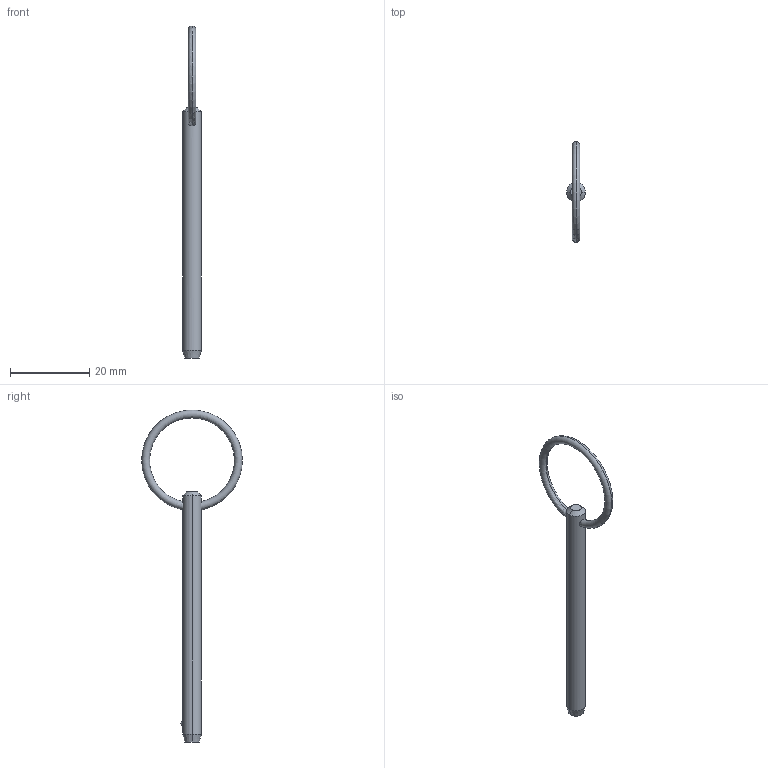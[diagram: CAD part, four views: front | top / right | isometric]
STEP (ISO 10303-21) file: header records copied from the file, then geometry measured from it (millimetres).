
FILE_DESCRIPTION (( 'STEP AP203' ), '1' );
FILE_NAME ('P1250.018-210.step', '2019-07-29T19:33:18', ( '' ), ( '' ), 'SwSTEP 2.0', 'SolidWorks 2017', '' );
FILE_SCHEMA (( 'CONFIG_CONTROL_DESIGN' ));
Length unit declared in the file: millimetre
Products named in the file (1): P1250.018-210
Bounding box: 4.76 x 25.4 x 83.78 mm (x, y, z)
Volume: 1325.8 mm3; surface area: 1387.1 mm2
Topology: 1 solids, 1 shells, 12 faces, 28 edges, 17 vertices
Faces by surface type: cone 4, torus 2, sphere 2, cylinder 2, plane 2
Entity records: 471 total; most frequent: CARTESIAN_POINT 138, DIRECTION 56, ORIENTED_EDGE 48, AXIS2_PLACEMENT_3D 25, EDGE_CURVE 24, EDGE_LOOP 15, VERTEX_POINT 15, FACE_OUTER_BOUND 12
